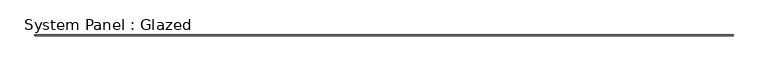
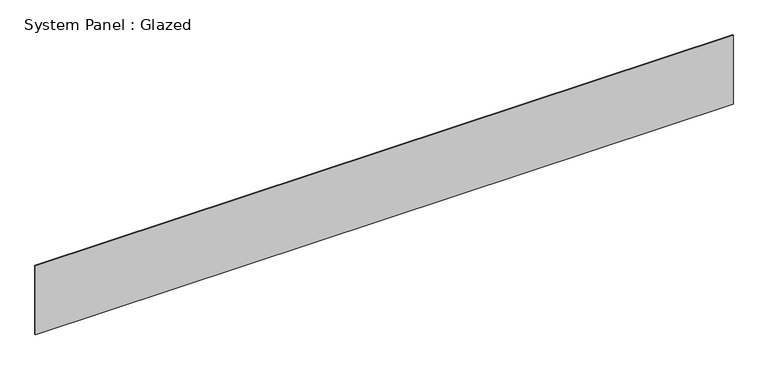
"""IFC4 building model written with IfcOpenShell, lengths in millimetres: plate geometry, System Panel : Glazed."""

from ifc_helpers import new_model, si_unit, origin, origin_with_axes, place, context, project, spatial, polyline, outline, extrude, source, transform, mapped, element, save


def system_panel_glazed_1b7991b1(model_context):
    return source(origin(), model_context, "Body", "SweptSolid", [
        extrude(outline(polyline([(9600.0, 24.5), (-9600.0, 24.5), (-9600.0, 49.5), (9600.0, 49.5), (9600.0, 24.5)])), origin_with_axes(), (0.0, 0.0, 1.0), 2000.0),
    ])


if __name__ == "__main__":
    model = new_model("IFC4")
    model_context = context("Model", 3, world=origin())
    ifc_project = project(units=[si_unit("LENGTHUNIT", "METRE", prefix="MILLI")], contexts=[model_context])
    site = spatial("IfcSite", under=ifc_project)
    building = spatial("IfcBuilding", under=site)
    placement = place(None, origin())
    system_panel_glazed_shape = system_panel_glazed_1b7991b1(model_context)
    element("IfcPlate", 1, ObjectType="System Panel : Glazed", at=placement, inside=building, context=model_context, shape_type="MappedRepresentation", body=[
        mapped(system_panel_glazed_shape, transform((0.0, 0.0, 0.0), x_axis=(1.0, 0.0, 0.0), y_axis=(0.0, 1.0, 0.0), z_axis=(0.0, 0.0, 1.0))),
    ])
    save(model, "model.ifc")
